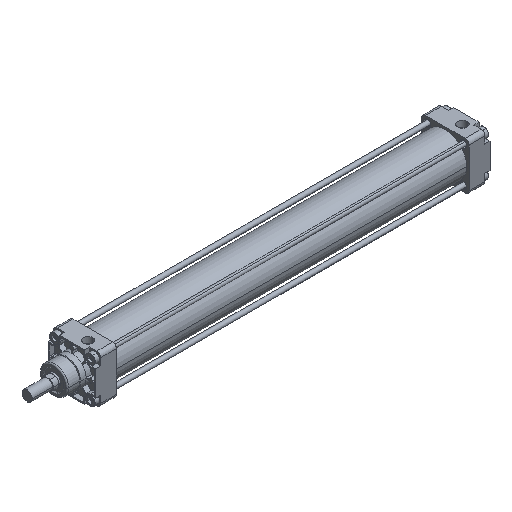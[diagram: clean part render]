
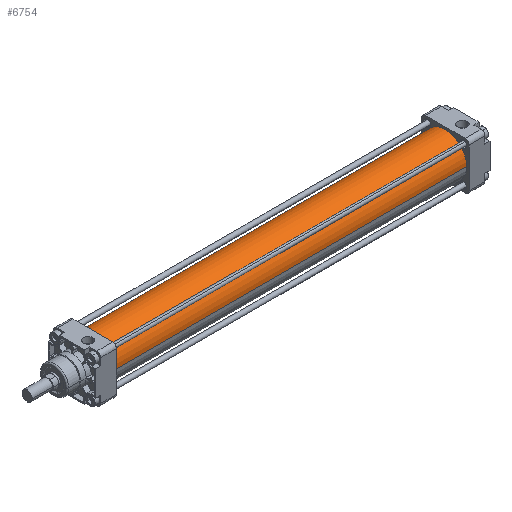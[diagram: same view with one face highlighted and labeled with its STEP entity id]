
A CAD part, isometric view. The second image highlights one B-rep face of the part: STEP entity #6754.
In plain terms, the highlighted cylindrical face has radius 33.5 mm (diameter 67 mm), a partial arc.
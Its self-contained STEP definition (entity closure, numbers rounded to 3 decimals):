
#6391=CARTESIAN_POINT('Vertex',(555.,-33.5,0.)) ;
#6393=CARTESIAN_POINT('Vertex',(555.,33.5,0.)) ;
#6396=CARTESIAN_POINT('Axis2P3D Location',(555.,0.,0.)) ;
#6724=CARTESIAN_POINT('Axis2P3D Location',(277.5,0.,0.)) ;
#6729=CARTESIAN_POINT('Line Origine',(277.5,33.5,0.)) ;
#6733=CARTESIAN_POINT('Vertex',(0.,33.5,0.)) ;
#6736=CARTESIAN_POINT('Axis2P3D Location',(0.,0.,0.)) ;
#6740=CARTESIAN_POINT('Vertex',(0.,-33.5,0.)) ;
#6743=CARTESIAN_POINT('Line Origine',(277.5,-33.5,0.)) ;
#6397=DIRECTION('Axis2P3D Direction',(1.,0.,0.)) ;
#6725=DIRECTION('Axis2P3D Direction',(1.,0.,0.)) ;
#6726=DIRECTION('Axis2P3D XDirection',(0.,1.,0.)) ;
#6730=DIRECTION('Vector Direction',(1.,0.,0.)) ;
#6737=DIRECTION('Axis2P3D Direction',(1.,0.,0.)) ;
#6744=DIRECTION('Vector Direction',(1.,0.,0.)) ;
#6398=AXIS2_PLACEMENT_3D('Circle Axis2P3D',#6396,#6397,$) ;
#6727=AXIS2_PLACEMENT_3D('Cylinder Axis2P3D',#6724,#6725,#6726) ;
#6738=AXIS2_PLACEMENT_3D('Circle Axis2P3D',#6736,#6737,$) ;
#6749=ORIENTED_EDGE('',*,*,#6735,.F.) ;
#6750=ORIENTED_EDGE('',*,*,#6742,.T.) ;
#6751=ORIENTED_EDGE('',*,*,#6747,.T.) ;
#6752=ORIENTED_EDGE('',*,*,#6400,.F.) ;
#6731=VECTOR('Line Direction',#6730,1.) ;
#6745=VECTOR('Line Direction',#6744,1.) ;
#6754=ADVANCED_FACE('PartBody',(#6753),#6728,.T.) ;
#6399=CIRCLE('generated circle',#6398,33.5) ;
#6739=CIRCLE('generated circle',#6738,33.5) ;
#6728=CYLINDRICAL_SURFACE('generated cylinder',#6727,33.5) ;
#6400=EDGE_CURVE('',#6394,#6392,#6399,.T.) ;
#6735=EDGE_CURVE('',#6734,#6394,#6732,.T.) ;
#6742=EDGE_CURVE('',#6734,#6741,#6739,.T.) ;
#6747=EDGE_CURVE('',#6741,#6392,#6746,.T.) ;
#6748=EDGE_LOOP('',(#6749,#6750,#6751,#6752)) ;
#6753=FACE_OUTER_BOUND('',#6748,.T.) ;
#6732=LINE('Line',#6729,#6731) ;
#6746=LINE('Line',#6743,#6745) ;
#6392=VERTEX_POINT('',#6391) ;
#6394=VERTEX_POINT('',#6393) ;
#6734=VERTEX_POINT('',#6733) ;
#6741=VERTEX_POINT('',#6740) ;
